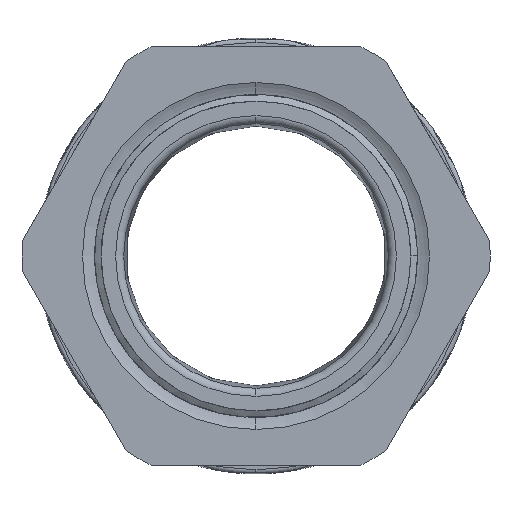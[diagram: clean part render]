
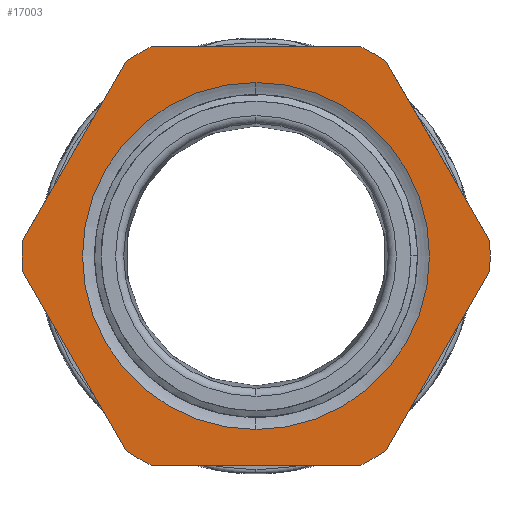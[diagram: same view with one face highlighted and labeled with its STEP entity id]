
A CAD part, front view. The second image highlights one B-rep face of the part: STEP entity #17003.
In plain terms, the highlighted planar face has unit normal (0, -1, 0).
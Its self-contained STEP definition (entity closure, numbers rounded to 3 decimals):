
#298 = VERTEX_POINT ( 'NONE', #1435 ) ;
#508 = VERTEX_POINT ( 'NONE', #21263 ) ;
#722 = CARTESIAN_POINT ( 'NONE',  ( -12.845, 13., -26. ) ) ;
#947 = AXIS2_PLACEMENT_3D ( 'NONE', #23682, #21600, #25842 ) ;
#1248 = EDGE_CURVE ( 'NONE', #9689, #16293, #19260, .T. ) ;
#1435 = CARTESIAN_POINT ( 'NONE',  ( 0., 13., 21.5 ) ) ;
#2234 = EDGE_CURVE ( 'NONE', #24521, #7151, #11049, .T. ) ;
#2497 = ORIENTED_EDGE ( 'NONE', *, *, #17617, .T. ) ;
#2944 = EDGE_CURVE ( 'NONE', #5159, #18222, #4019, .T. ) ;
#2984 = FACE_BOUND ( 'NONE', #4082, .T. ) ;
#3410 = CARTESIAN_POINT ( 'NONE',  ( 0., 13., -21.5 ) ) ;
#3731 = DIRECTION ( 'NONE',  ( 0., 0., -1. ) ) ;
#3830 = DIRECTION ( 'NONE',  ( 0., 0., -1. ) ) ;
#3993 = CIRCLE ( 'NONE', #23163, 21.5 ) ;
#4019 = LINE ( 'NONE', #14540, #10121 ) ;
#4082 = EDGE_LOOP ( 'NONE', ( #5993, #16985 ) ) ;
#4474 = CIRCLE ( 'NONE', #15096, 29. ) ;
#4509 = AXIS2_PLACEMENT_3D ( 'NONE', #6085, #21312, #3731 ) ;
#4555 = EDGE_CURVE ( 'NONE', #24292, #508, #20596, .T. ) ;
#4590 = AXIS2_PLACEMENT_3D ( 'NONE', #21215, #10460, #17020 ) ;
#5159 = VERTEX_POINT ( 'NONE', #722 ) ;
#5425 = CARTESIAN_POINT ( 'NONE',  ( 0., 13., 0. ) ) ;
#5427 = CIRCLE ( 'NONE', #11836, 29. ) ;
#5454 = VERTEX_POINT ( 'NONE', #7043 ) ;
#5993 = ORIENTED_EDGE ( 'NONE', *, *, #17571, .F. ) ;
#6051 = DIRECTION ( 'NONE',  ( 1., 0., 0. ) ) ;
#6085 = CARTESIAN_POINT ( 'NONE',  ( 0., 13., 0. ) ) ;
#6505 = DIRECTION ( 'NONE',  ( -1., 0., 0. ) ) ;
#6649 = CARTESIAN_POINT ( 'NONE',  ( -17.142, 13., -22.31 ) ) ;
#6695 = EDGE_CURVE ( 'NONE', #16293, #20620, #20179, .T. ) ;
#6848 = VERTEX_POINT ( 'NONE', #24755 ) ;
#7043 = CARTESIAN_POINT ( 'NONE',  ( -28.939, 13., 1.876 ) ) ;
#7064 = CARTESIAN_POINT ( 'NONE',  ( 16.094, 13., 24.124 ) ) ;
#7151 = VERTEX_POINT ( 'NONE', #9929 ) ;
#7342 = ORIENTED_EDGE ( 'NONE', *, *, #9462, .T. ) ;
#7926 = VECTOR ( 'NONE', #13006, 1000. ) ;
#8174 = LINE ( 'NONE', #12686, #25833 ) ;
#8208 = PLANE ( 'NONE',  #26053 ) ;
#8300 = CARTESIAN_POINT ( 'NONE',  ( 21.5, 13., 0. ) ) ;
#9462 = EDGE_CURVE ( 'NONE', #5454, #24292, #5427, .T. ) ;
#9522 = DIRECTION ( 'NONE',  ( 0., 0., -1. ) ) ;
#9689 = VERTEX_POINT ( 'NONE', #24752 ) ;
#9929 = CARTESIAN_POINT ( 'NONE',  ( -16.094, 13., 24.124 ) ) ;
#10076 = DIRECTION ( 'NONE',  ( 0., 0., -1. ) ) ;
#10081 = ORIENTED_EDGE ( 'NONE', *, *, #2944, .T. ) ;
#10121 = VECTOR ( 'NONE', #6051, 1000. ) ;
#10363 = ORIENTED_EDGE ( 'NONE', *, *, #6695, .T. ) ;
#10460 = DIRECTION ( 'NONE',  ( 0., -1., 0. ) ) ;
#10563 = DIRECTION ( 'NONE',  ( 0., -1., 0. ) ) ;
#11049 = CIRCLE ( 'NONE', #16467, 29. ) ;
#11171 = VERTEX_POINT ( 'NONE', #19377 ) ;
#11436 = ORIENTED_EDGE ( 'NONE', *, *, #4555, .T. ) ;
#11836 = AXIS2_PLACEMENT_3D ( 'NONE', #17656, #13090, #12991 ) ;
#12467 = CARTESIAN_POINT ( 'NONE',  ( 0., 13., 0. ) ) ;
#12544 = ORIENTED_EDGE ( 'NONE', *, *, #2234, .T. ) ;
#12681 = DIRECTION ( 'NONE',  ( 0., -1., 0. ) ) ;
#12686 = CARTESIAN_POINT ( 'NONE',  ( -17.142, 13., 22.31 ) ) ;
#12761 = EDGE_CURVE ( 'NONE', #20620, #6848, #4474, .T. ) ;
#12845 = FACE_OUTER_BOUND ( 'NONE', #25036, .T. ) ;
#12848 = DIRECTION ( 'NONE',  ( 0.5, 0., 0.866 ) ) ;
#12991 = DIRECTION ( 'NONE',  ( 0., 0., -1. ) ) ;
#13006 = DIRECTION ( 'NONE',  ( -0.5, 0., 0.866 ) ) ;
#13090 = DIRECTION ( 'NONE',  ( 0., -1., 0. ) ) ;
#14067 = CARTESIAN_POINT ( 'NONE',  ( -12.845, 13., 26. ) ) ;
#14095 = DIRECTION ( 'NONE',  ( 0., 0., -1. ) ) ;
#14121 = VECTOR ( 'NONE', #12848, 1000. ) ;
#14540 = CARTESIAN_POINT ( 'NONE',  ( 21.5, 13., -26. ) ) ;
#14800 = DIRECTION ( 'NONE',  ( -0.5, 0., -0.866 ) ) ;
#14846 = ORIENTED_EDGE ( 'NONE', *, *, #23252, .T. ) ;
#15096 = AXIS2_PLACEMENT_3D ( 'NONE', #20918, #23096, #10076 ) ;
#16091 = AXIS2_PLACEMENT_3D ( 'NONE', #5425, #22723, #14095 ) ;
#16293 = VERTEX_POINT ( 'NONE', #25764 ) ;
#16340 = LINE ( 'NONE', #17634, #19070 ) ;
#16467 = AXIS2_PLACEMENT_3D ( 'NONE', #20105, #26792, #9522 ) ;
#16652 = ORIENTED_EDGE ( 'NONE', *, *, #12761, .T. ) ;
#16678 = EDGE_CURVE ( 'NONE', #298, #24501, #22040, .T. ) ;
#16985 = ORIENTED_EDGE ( 'NONE', *, *, #16678, .F. ) ;
#17003 = ADVANCED_FACE ( 'NONE', ( #2984, #12845 ), #8208, .T. ) ;
#17020 = DIRECTION ( 'NONE',  ( 0., 0., -1. ) ) ;
#17483 = CARTESIAN_POINT ( 'NONE',  ( 27.892, 13., 3.69 ) ) ;
#17571 = EDGE_CURVE ( 'NONE', #24501, #298, #3993, .T. ) ;
#17617 = EDGE_CURVE ( 'NONE', #508, #5159, #18967, .T. ) ;
#17634 = CARTESIAN_POINT ( 'NONE',  ( 21.5, 13., 26. ) ) ;
#17656 = CARTESIAN_POINT ( 'NONE',  ( 0., 13., 0. ) ) ;
#18222 = VERTEX_POINT ( 'NONE', #23051 ) ;
#18914 = VECTOR ( 'NONE', #21868, 1000. ) ;
#18967 = CIRCLE ( 'NONE', #4590, 29. ) ;
#19070 = VECTOR ( 'NONE', #6505, 1000. ) ;
#19260 = CIRCLE ( 'NONE', #16091, 29. ) ;
#19377 = CARTESIAN_POINT ( 'NONE',  ( 16.094, 13., -24.124 ) ) ;
#19892 = LINE ( 'NONE', #28121, #14121 ) ;
#19952 = ORIENTED_EDGE ( 'NONE', *, *, #22046, .T. ) ;
#20105 = CARTESIAN_POINT ( 'NONE',  ( 0., 13., 0. ) ) ;
#20179 = LINE ( 'NONE', #17483, #7926 ) ;
#20596 = LINE ( 'NONE', #6649, #18914 ) ;
#20620 = VERTEX_POINT ( 'NONE', #7064 ) ;
#20918 = CARTESIAN_POINT ( 'NONE',  ( 0., 13., 0. ) ) ;
#20989 = ORIENTED_EDGE ( 'NONE', *, *, #1248, .T. ) ;
#21215 = CARTESIAN_POINT ( 'NONE',  ( 0., 13., 0. ) ) ;
#21263 = CARTESIAN_POINT ( 'NONE',  ( -16.094, 13., -24.124 ) ) ;
#21312 = DIRECTION ( 'NONE',  ( 0., -1., 0. ) ) ;
#21600 = DIRECTION ( 'NONE',  ( 0., -1., 0. ) ) ;
#21868 = DIRECTION ( 'NONE',  ( 0.5, 0., -0.866 ) ) ;
#22040 = CIRCLE ( 'NONE', #947, 21.5 ) ;
#22046 = EDGE_CURVE ( 'NONE', #11171, #9689, #19892, .T. ) ;
#22723 = DIRECTION ( 'NONE',  ( 0., -1., 0. ) ) ;
#23051 = CARTESIAN_POINT ( 'NONE',  ( 12.845, 13., -26. ) ) ;
#23096 = DIRECTION ( 'NONE',  ( 0., -1., 0. ) ) ;
#23163 = AXIS2_PLACEMENT_3D ( 'NONE', #12467, #10563, #3830 ) ;
#23252 = EDGE_CURVE ( 'NONE', #18222, #11171, #23590, .T. ) ;
#23409 = DIRECTION ( 'NONE',  ( 0., 0., -1. ) ) ;
#23590 = CIRCLE ( 'NONE', #4509, 29. ) ;
#23682 = CARTESIAN_POINT ( 'NONE',  ( 0., 13., 0. ) ) ;
#24200 = CARTESIAN_POINT ( 'NONE',  ( -28.939, 13., -1.876 ) ) ;
#24292 = VERTEX_POINT ( 'NONE', #24200 ) ;
#24501 = VERTEX_POINT ( 'NONE', #3410 ) ;
#24521 = VERTEX_POINT ( 'NONE', #14067 ) ;
#24752 = CARTESIAN_POINT ( 'NONE',  ( 28.939, 13., -1.876 ) ) ;
#24755 = CARTESIAN_POINT ( 'NONE',  ( 12.845, 13., 26. ) ) ;
#24965 = ORIENTED_EDGE ( 'NONE', *, *, #25689, .T. ) ;
#25036 = EDGE_LOOP ( 'NONE', ( #14846, #19952, #20989, #10363, #16652, #24965, #12544, #25578, #7342, #11436, #2497, #10081 ) ) ;
#25578 = ORIENTED_EDGE ( 'NONE', *, *, #25606, .T. ) ;
#25606 = EDGE_CURVE ( 'NONE', #7151, #5454, #8174, .T. ) ;
#25689 = EDGE_CURVE ( 'NONE', #6848, #24521, #16340, .T. ) ;
#25764 = CARTESIAN_POINT ( 'NONE',  ( 28.939, 13., 1.876 ) ) ;
#25833 = VECTOR ( 'NONE', #14800, 1000. ) ;
#25842 = DIRECTION ( 'NONE',  ( 0., 0., -1. ) ) ;
#26053 = AXIS2_PLACEMENT_3D ( 'NONE', #8300, #12681, #23409 ) ;
#26792 = DIRECTION ( 'NONE',  ( 0., -1., 0. ) ) ;
#28121 = CARTESIAN_POINT ( 'NONE',  ( 27.892, 13., -3.69 ) ) ;
